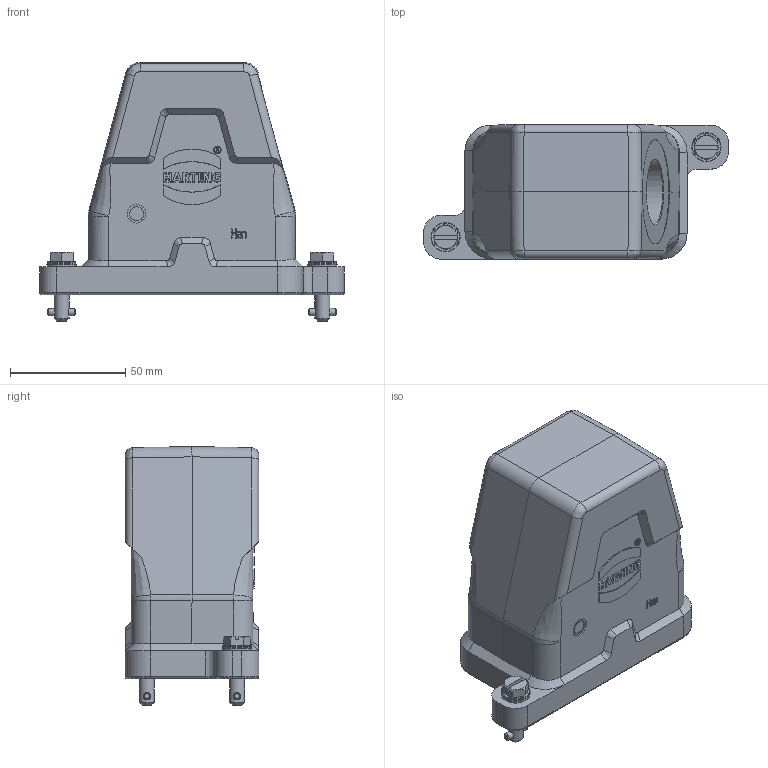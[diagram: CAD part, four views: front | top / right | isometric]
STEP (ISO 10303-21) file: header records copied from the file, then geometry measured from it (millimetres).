
FILE_DESCRIPTION(/* description */ (''),/* implementation_level */ '2;1');
FILE_NAME(/* name */ '100768155ugm000_a.stp',/* time_stamp */ '2022-03-12T07:19:04+01:00',/* author */ (''),/* organization */ (''),/* preprocessor_version */ 'ST-DEVELOPER v16.7',/* originating_system */ 'SIEMENS PLM Software NX 1911',/* authorisation */ '');
FILE_SCHEMA (('AUTOMOTIVE_DESIGN { 1 0 10303 214 3 1 1 1 }'));
Length unit declared in the file: millimetre
Products named in the file (1): 100768155ugm000_a
Bounding box: 132 x 58 x 112.1 mm (x, y, z)
Volume: 167969.5 mm3; surface area: 61404.5 mm2
Topology: 1 solids, 1 shells, 486 faces, 1242 edges, 788 vertices
Faces by surface type: plane 224, cylinder 98, bspline 77, cone 67, torus 20
Full cylindrical faces by diameter (mm): 3 x4, 3.2 x4, 6 x1, 6.5 x2, 8 x1, 28.3 x1, 45.3 x1
Entity records: 20970 total; most frequent: CARTESIAN_POINT 6861, ORIENTED_EDGE 2288, DIRECTION 2004, EDGE_CURVE 1144, VERTEX_POINT 733, AXIS2_PLACEMENT_3D 719, LINE 566, VECTOR 566
